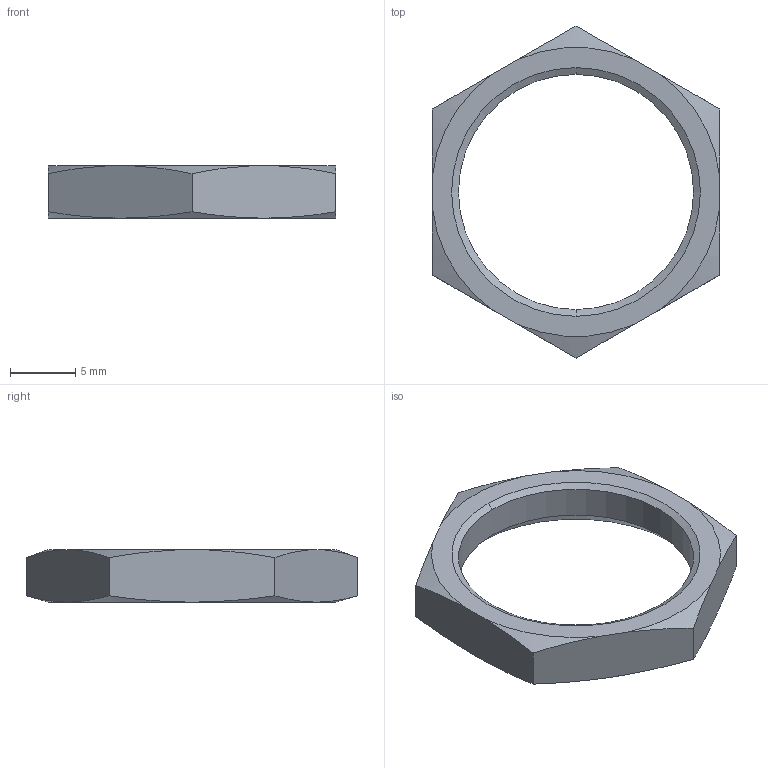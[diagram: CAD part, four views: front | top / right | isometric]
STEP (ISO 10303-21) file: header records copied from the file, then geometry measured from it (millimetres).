
FILE_DESCRIPTION((''),'2;1');
FILE_NAME('10-855','2012-03-02T',('jfgibert'),(''),'PRO/ENGINEER BY PARAMETRIC TECHNOLOGY CORPORATION, 2011250','PRO/ENGINEER BY PARAMETRIC TECHNOLOGY CORPORATION, 2011250','');
FILE_SCHEMA(('CONFIG_CONTROL_DESIGN'));
Length unit declared in the file: millimetre
Products named in the file (1): 10-855
Bounding box: 22 x 25.4 x 4 mm (x, y, z)
Surface area: 783.8 mm2 (no closed solid volume)
Topology: 0 solids, 1 shells, 26 faces, 64 edges, 40 vertices
Faces by surface type: cone 16, plane 8, cylinder 2
Entity records: 904 total; most frequent: CARTESIAN_POINT 274, ORIENTED_EDGE 128, DIRECTION 114, EDGE_CURVE 64, AXIS2_PLACEMENT_3D 48, VERTEX_POINT 40, EDGE_LOOP 28, FACE_OUTER_BOUND 26
